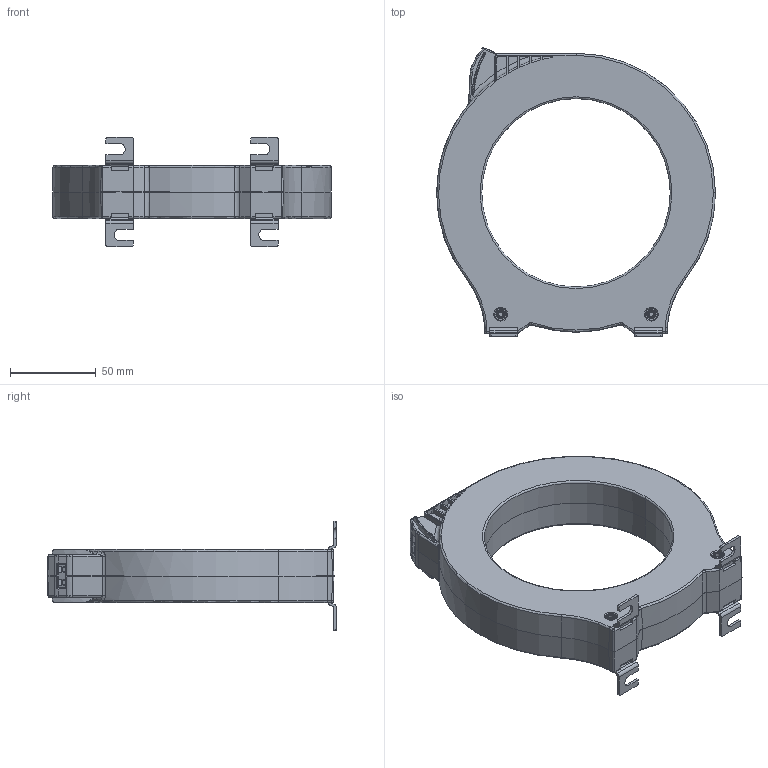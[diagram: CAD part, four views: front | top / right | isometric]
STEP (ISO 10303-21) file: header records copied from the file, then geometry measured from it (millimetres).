
FILE_DESCRIPTION((''),'2;1');
FILE_NAME('WGC_110_2P_SW0001','2021-03-25T10:25:38',('esors'),(''),'CREO PARAMETRIC BY PTC INC, 2018260','CREO PARAMETRIC BY PTC INC, 2018260','');
FILE_SCHEMA(('AUTOMOTIVE_DESIGN { 1 0 10303 214 1 1 1 1 }'));
Length unit declared in the file: millimetre
Products named in the file (1): WGC_110_2P_SW0001
Bounding box: 162.9 x 168.69 x 64 mm (x, y, z)
Surface area: 56719.9 mm2 (no closed solid volume)
Topology: 0 solids, 12 shells, 427 faces, 1238 edges, 823 vertices
Faces by surface type: plane 181, cylinder 108, cone 52, torus 48, bspline 34, sphere 4
Entity records: 23720 total; most frequent: CARTESIAN_POINT 7561, ORIENTED_EDGE 2203, DIRECTION 2036, COLOUR_RGB 1578, PRESENTATION_STYLE_ASSIGNMENT 1240, STYLED_ITEM 1240, CURVE_STYLE 1228, EDGE_CURVE 1228
